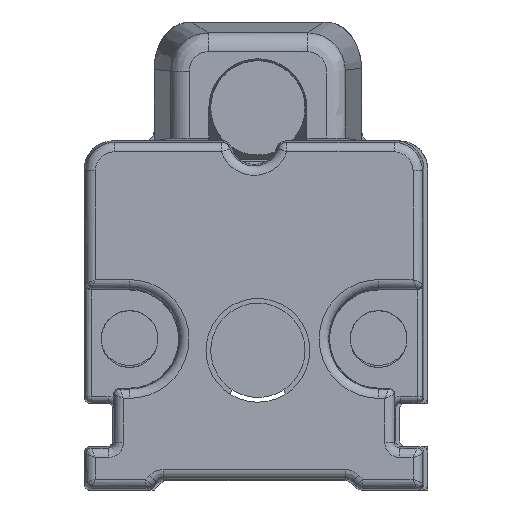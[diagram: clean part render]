
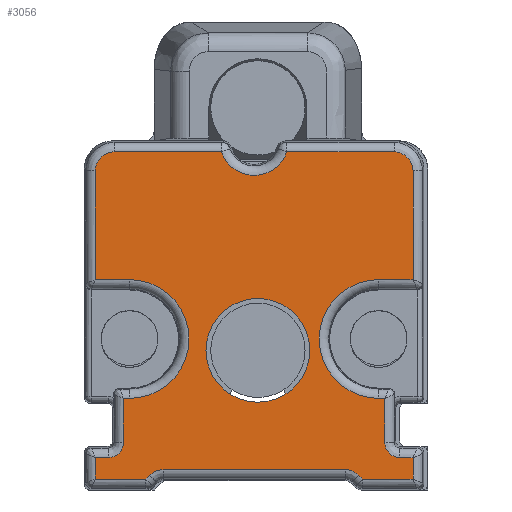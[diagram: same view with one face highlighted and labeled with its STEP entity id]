
A CAD part, front view. The second image highlights one B-rep face of the part: STEP entity #3056.
In plain terms, the highlighted planar face has unit normal (0, -1, 0).
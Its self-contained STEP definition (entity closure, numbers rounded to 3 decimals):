
#214=B_SPLINE_CURVE_WITH_KNOTS('',3,(#14723,#14724,#14725,#14726),
 .UNSPECIFIED.,.F.,.F.,(4,4),(0.,1.),.UNSPECIFIED.);
#215=B_SPLINE_CURVE_WITH_KNOTS('',3,(#14734,#14735,#14736,#14737),
 .UNSPECIFIED.,.F.,.F.,(4,4),(0.,1.),.UNSPECIFIED.);
#322=ELLIPSE('',#10263,0.8,0.8);
#323=ELLIPSE('',#10264,1.,1.);
#324=ELLIPSE('',#10265,1.,1.);
#325=ELLIPSE('',#10266,0.8,0.8);
#640=LINE('',#14720,#1514);
#641=LINE('',#14728,#1515);
#642=LINE('',#14732,#1516);
#643=LINE('',#14739,#1517);
#644=LINE('',#14741,#1518);
#645=LINE('',#14745,#1519);
#646=LINE('',#14747,#1520);
#647=LINE('',#14751,#1521);
#648=LINE('',#14753,#1522);
#649=LINE('',#14755,#1523);
#650=LINE('',#14757,#1524);
#651=LINE('',#14761,#1525);
#652=LINE('',#14765,#1526);
#653=LINE('',#14767,#1527);
#654=LINE('',#14769,#1528);
#655=LINE('',#14771,#1529);
#656=LINE('',#14775,#1530);
#657=LINE('',#14777,#1531);
#658=LINE('',#14781,#1532);
#1514=VECTOR('',#11691,1.);
#1515=VECTOR('',#11692,1.);
#1516=VECTOR('',#11695,1.);
#1517=VECTOR('',#11696,1.);
#1518=VECTOR('',#11697,1.);
#1519=VECTOR('',#11700,1.);
#1520=VECTOR('',#11701,1.);
#1521=VECTOR('',#11704,1.);
#1522=VECTOR('',#11705,1.);
#1523=VECTOR('',#11706,1.);
#1524=VECTOR('',#11707,1.);
#1525=VECTOR('',#11710,1.);
#1526=VECTOR('',#11713,1.);
#1527=VECTOR('',#11714,1.);
#1528=VECTOR('',#11715,1.);
#1529=VECTOR('',#11716,1.);
#1530=VECTOR('',#11719,1.);
#1531=VECTOR('',#11720,1.);
#1532=VECTOR('',#11723,1.);
#2232=PLANE('',#10268);
#3056=ADVANCED_FACE('',(#3725,#3726),#2232,.T.);
#3725=FACE_BOUND('',#3909,.T.);
#3726=FACE_BOUND('',#3910,.T.);
#3909=EDGE_LOOP('',(#4987));
#3910=EDGE_LOOP('',(#4988,#4989,#4990,#4991,#4992,#4993,#4994,#4995,#4996,
#4997,#4998,#4999,#5000,#5001,#5002,#5003,#5004,#5005,#5006,#5007,#5008,
#5009,#5010,#5011,#5012,#5013,#5014,#5015));
#4987=ORIENTED_EDGE('',*,*,#8610,.F.);
#4988=ORIENTED_EDGE('',*,*,#8611,.T.);
#4989=ORIENTED_EDGE('',*,*,#8612,.T.);
#4990=ORIENTED_EDGE('',*,*,#8613,.T.);
#4991=ORIENTED_EDGE('',*,*,#8614,.T.);
#4992=ORIENTED_EDGE('',*,*,#8615,.T.);
#4993=ORIENTED_EDGE('',*,*,#8616,.T.);
#4994=ORIENTED_EDGE('',*,*,#8617,.T.);
#4995=ORIENTED_EDGE('',*,*,#8618,.T.);
#4996=ORIENTED_EDGE('',*,*,#8619,.T.);
#4997=ORIENTED_EDGE('',*,*,#8620,.T.);
#4998=ORIENTED_EDGE('',*,*,#8621,.T.);
#4999=ORIENTED_EDGE('',*,*,#8622,.T.);
#5000=ORIENTED_EDGE('',*,*,#8623,.T.);
#5001=ORIENTED_EDGE('',*,*,#8624,.T.);
#5002=ORIENTED_EDGE('',*,*,#8625,.T.);
#5003=ORIENTED_EDGE('',*,*,#8626,.T.);
#5004=ORIENTED_EDGE('',*,*,#8627,.T.);
#5005=ORIENTED_EDGE('',*,*,#8628,.T.);
#5006=ORIENTED_EDGE('',*,*,#8629,.T.);
#5007=ORIENTED_EDGE('',*,*,#8630,.T.);
#5008=ORIENTED_EDGE('',*,*,#8631,.T.);
#5009=ORIENTED_EDGE('',*,*,#8632,.T.);
#5010=ORIENTED_EDGE('',*,*,#8633,.T.);
#5011=ORIENTED_EDGE('',*,*,#8634,.T.);
#5012=ORIENTED_EDGE('',*,*,#8635,.T.);
#5013=ORIENTED_EDGE('',*,*,#8636,.T.);
#5014=ORIENTED_EDGE('',*,*,#8637,.T.);
#5015=ORIENTED_EDGE('',*,*,#8638,.T.);
#7583=VERTEX_POINT('',#14719);
#7584=VERTEX_POINT('',#14721);
#7585=VERTEX_POINT('',#14722);
#7586=VERTEX_POINT('',#14727);
#7587=VERTEX_POINT('',#14729);
#7588=VERTEX_POINT('',#14731);
#7589=VERTEX_POINT('',#14733);
#7590=VERTEX_POINT('',#14738);
#7591=VERTEX_POINT('',#14740);
#7592=VERTEX_POINT('',#14742);
#7593=VERTEX_POINT('',#14744);
#7594=VERTEX_POINT('',#14746);
#7595=VERTEX_POINT('',#14748);
#7596=VERTEX_POINT('',#14750);
#7597=VERTEX_POINT('',#14752);
#7598=VERTEX_POINT('',#14754);
#7599=VERTEX_POINT('',#14756);
#7600=VERTEX_POINT('',#14758);
#7601=VERTEX_POINT('',#14760);
#7602=VERTEX_POINT('',#14762);
#7603=VERTEX_POINT('',#14764);
#7604=VERTEX_POINT('',#14766);
#7605=VERTEX_POINT('',#14768);
#7606=VERTEX_POINT('',#14770);
#7607=VERTEX_POINT('',#14772);
#7608=VERTEX_POINT('',#14774);
#7609=VERTEX_POINT('',#14776);
#7610=VERTEX_POINT('',#14778);
#7611=VERTEX_POINT('',#14780);
#8610=EDGE_CURVE('',#7583,#7583,#9781,.T.);
#8611=EDGE_CURVE('',#7584,#7585,#640,.T.);
#8612=EDGE_CURVE('',#7585,#7586,#214,.T.);
#8613=EDGE_CURVE('',#7586,#7587,#641,.T.);
#8614=EDGE_CURVE('',#7587,#7588,#9782,.T.);
#8615=EDGE_CURVE('',#7588,#7589,#642,.T.);
#8616=EDGE_CURVE('',#7589,#7590,#215,.T.);
#8617=EDGE_CURVE('',#7590,#7591,#643,.T.);
#8618=EDGE_CURVE('',#7591,#7592,#644,.T.);
#8619=EDGE_CURVE('',#7592,#7593,#9783,.T.);
#8620=EDGE_CURVE('',#7593,#7594,#645,.T.);
#8621=EDGE_CURVE('',#7594,#7595,#646,.T.);
#8622=EDGE_CURVE('',#7595,#7596,#322,.T.);
#8623=EDGE_CURVE('',#7596,#7597,#647,.T.);
#8624=EDGE_CURVE('',#7597,#7598,#648,.T.);
#8625=EDGE_CURVE('',#7598,#7599,#649,.T.);
#8626=EDGE_CURVE('',#7599,#7600,#650,.T.);
#8627=EDGE_CURVE('',#7600,#7601,#323,.T.);
#8628=EDGE_CURVE('',#7601,#7602,#651,.T.);
#8629=EDGE_CURVE('',#7602,#7603,#324,.T.);
#8630=EDGE_CURVE('',#7603,#7604,#652,.T.);
#8631=EDGE_CURVE('',#7604,#7605,#653,.T.);
#8632=EDGE_CURVE('',#7605,#7606,#654,.T.);
#8633=EDGE_CURVE('',#7606,#7607,#655,.T.);
#8634=EDGE_CURVE('',#7607,#7608,#325,.T.);
#8635=EDGE_CURVE('',#7608,#7609,#656,.T.);
#8636=EDGE_CURVE('',#7609,#7610,#657,.T.);
#8637=EDGE_CURVE('',#7610,#7611,#9784,.T.);
#8638=EDGE_CURVE('',#7611,#7584,#658,.T.);
#9781=CIRCLE('',#10260,2.75);
#9782=CIRCLE('',#10261,1.829);
#9783=CIRCLE('',#10262,3.148);
#9784=CIRCLE('',#10267,3.148);
#10260=AXIS2_PLACEMENT_3D('',#14718,#11689,#11690);
#10261=AXIS2_PLACEMENT_3D('',#14730,#11693,#11694);
#10262=AXIS2_PLACEMENT_3D('',#14743,#11698,#11699);
#10263=AXIS2_PLACEMENT_3D('',#14749,#11702,#11703);
#10264=AXIS2_PLACEMENT_3D('',#14759,#11708,#11709);
#10265=AXIS2_PLACEMENT_3D('',#14763,#11711,#11712);
#10266=AXIS2_PLACEMENT_3D('',#14773,#11717,#11718);
#10267=AXIS2_PLACEMENT_3D('',#14779,#11721,#11722);
#10268=AXIS2_PLACEMENT_3D('',#14782,#11724,#11725);
#11689=DIRECTION('',(0.,-1.,0.));
#11690=DIRECTION('',(0.,0.,-1.));
#11691=DIRECTION('',(0.,0.,1.));
#11692=DIRECTION('',(-1.,0.,0.));
#11693=DIRECTION('',(0.,1.,0.));
#11694=DIRECTION('',(0.,0.,-1.));
#11695=DIRECTION('',(-1.,0.,0.));
#11696=DIRECTION('',(0.,0.,-1.));
#11697=DIRECTION('',(1.,0.,0.));
#11698=DIRECTION('',(0.,1.,0.));
#11699=DIRECTION('',(0.,0.,-1.));
#11700=DIRECTION('',(-1.,0.,0.));
#11701=DIRECTION('',(0.,0.,-1.));
#11702=DIRECTION('',(0.,1.,0.));
#11703=DIRECTION('',(-0.707,0.,0.707));
#11704=DIRECTION('',(-1.,0.,0.));
#11705=DIRECTION('',(0.,0.,-1.));
#11706=DIRECTION('',(1.,0.,0.));
#11707=DIRECTION('',(0.707,0.,0.707));
#11708=DIRECTION('',(0.,1.,0.));
#11709=DIRECTION('',(0.383,0.,-0.924));
#11710=DIRECTION('',(1.,0.,0.));
#11711=DIRECTION('',(0.,1.,0.));
#11712=DIRECTION('',(-0.383,0.,-0.924));
#11713=DIRECTION('',(0.707,0.,-0.707));
#11714=DIRECTION('',(1.,0.,0.));
#11715=DIRECTION('',(0.,0.,1.));
#11716=DIRECTION('',(-1.,0.,0.));
#11717=DIRECTION('',(0.,1.,0.));
#11718=DIRECTION('',(0.707,0.,0.707));
#11719=DIRECTION('',(0.,0.,1.));
#11720=DIRECTION('',(-1.,0.,0.));
#11721=DIRECTION('',(0.,1.,0.));
#11722=DIRECTION('',(0.,0.,-1.));
#11723=DIRECTION('',(1.,0.,0.));
#11724=DIRECTION('',(0.,-1.,0.));
#11725=DIRECTION('',(-1.,0.,0.));
#14718=CARTESIAN_POINT('',(100.,-18.,106.9));
#14719=CARTESIAN_POINT('',(100.,-18.,104.15));
#14720=CARTESIAN_POINT('',(108.221,-18.,116.75));
#14721=CARTESIAN_POINT('',(108.221,-18.,110.648));
#14722=CARTESIAN_POINT('',(108.221,-18.,116.422));
#14723=CARTESIAN_POINT('',(108.221,-18.,116.422));
#14724=CARTESIAN_POINT('',(108.221,-18.,116.951));
#14725=CARTESIAN_POINT('',(107.753,-18.,117.421));
#14726=CARTESIAN_POINT('',(107.221,-18.,117.421));
#14727=CARTESIAN_POINT('',(107.221,-18.,117.421));
#14728=CARTESIAN_POINT('',(107.55,-18.,117.421));
#14729=CARTESIAN_POINT('',(101.535,-18.,117.421));
#14730=CARTESIAN_POINT('',(99.8,-18.,118.));
#14731=CARTESIAN_POINT('',(98.065,-18.,117.421));
#14732=CARTESIAN_POINT('',(107.55,-18.,117.421));
#14733=CARTESIAN_POINT('',(92.378,-18.,117.421));
#14734=CARTESIAN_POINT('',(92.378,-18.,117.421));
#14735=CARTESIAN_POINT('',(91.849,-18.,117.421));
#14736=CARTESIAN_POINT('',(91.379,-18.,116.953));
#14737=CARTESIAN_POINT('',(91.379,-18.,116.422));
#14738=CARTESIAN_POINT('',(91.379,-18.,116.422));
#14739=CARTESIAN_POINT('',(91.379,-18.,116.75));
#14740=CARTESIAN_POINT('',(91.379,-18.,110.648));
#14741=CARTESIAN_POINT('',(93.2,-18.,110.648));
#14742=CARTESIAN_POINT('',(93.2,-18.,110.648));
#14743=CARTESIAN_POINT('',(93.2,-18.,107.5));
#14744=CARTESIAN_POINT('',(93.2,-18.,104.352));
#14745=CARTESIAN_POINT('',(92.687,-18.,104.352));
#14746=CARTESIAN_POINT('',(92.879,-18.,104.352));
#14747=CARTESIAN_POINT('',(92.879,-18.,116.75));
#14748=CARTESIAN_POINT('',(92.879,-18.,102.021));
#14749=CARTESIAN_POINT('',(92.078,-18.,102.021));
#14750=CARTESIAN_POINT('',(92.079,-18.,101.221));
#14751=CARTESIAN_POINT('',(107.55,-18.,101.221));
#14752=CARTESIAN_POINT('',(91.379,-18.,101.221));
#14753=CARTESIAN_POINT('',(91.379,-18.,116.75));
#14754=CARTESIAN_POINT('',(91.379,-18.,100.079));
#14755=CARTESIAN_POINT('',(107.55,-18.,100.079));
#14756=CARTESIAN_POINT('',(94.06,-18.,100.079));
#14757=CARTESIAN_POINT('',(109.141,-18.,115.159));
#14758=CARTESIAN_POINT('',(94.267,-18.,100.286));
#14759=CARTESIAN_POINT('',(94.975,-18.,99.578));
#14760=CARTESIAN_POINT('',(94.974,-18.,100.579));
#14761=CARTESIAN_POINT('',(107.55,-18.,100.579));
#14762=CARTESIAN_POINT('',(104.628,-18.,100.579));
#14763=CARTESIAN_POINT('',(104.628,-18.,99.578));
#14764=CARTESIAN_POINT('',(105.335,-18.,100.286));
#14765=CARTESIAN_POINT('',(98.21,-18.,107.41));
#14766=CARTESIAN_POINT('',(105.542,-18.,100.079));
#14767=CARTESIAN_POINT('',(107.55,-18.,100.079));
#14768=CARTESIAN_POINT('',(108.221,-18.,100.079));
#14769=CARTESIAN_POINT('',(108.221,-18.,116.75));
#14770=CARTESIAN_POINT('',(108.221,-18.,101.221));
#14771=CARTESIAN_POINT('',(107.55,-18.,101.221));
#14772=CARTESIAN_POINT('',(107.521,-18.,101.221));
#14773=CARTESIAN_POINT('',(107.521,-18.,102.021));
#14774=CARTESIAN_POINT('',(106.721,-18.,102.021));
#14775=CARTESIAN_POINT('',(106.721,-18.,116.75));
#14776=CARTESIAN_POINT('',(106.721,-18.,104.352));
#14777=CARTESIAN_POINT('',(106.4,-18.,104.352));
#14778=CARTESIAN_POINT('',(106.4,-18.,104.352));
#14779=CARTESIAN_POINT('',(106.4,-18.,107.5));
#14780=CARTESIAN_POINT('',(106.4,-18.,110.648));
#14781=CARTESIAN_POINT('',(108.413,-18.,110.648));
#14782=CARTESIAN_POINT('',(107.55,-18.,116.75));
